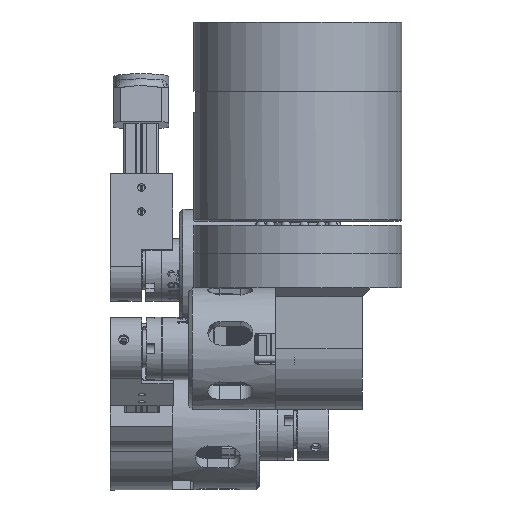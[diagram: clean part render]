
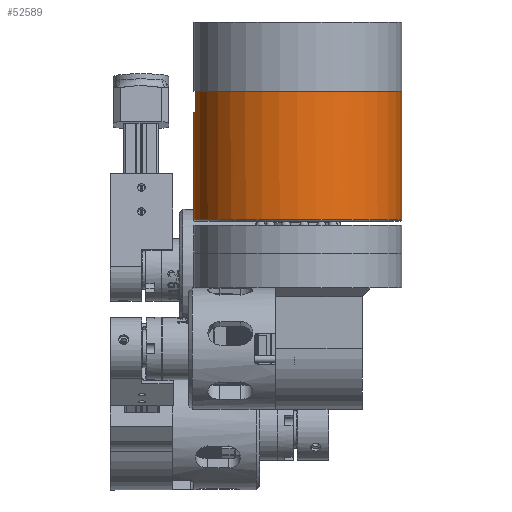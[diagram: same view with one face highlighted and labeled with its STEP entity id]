
A CAD part, left-side view. The second image highlights one B-rep face of the part: STEP entity #52589.
In plain terms, the highlighted cylindrical face has radius 60 mm (diameter 120 mm), a full revolution.
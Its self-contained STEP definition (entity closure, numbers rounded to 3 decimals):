
#2932=CYLINDRICAL_SURFACE('',#56781,60.);
#6022=FACE_OUTER_BOUND('',#9125,.T.);
#9125=EDGE_LOOP('',(#46801,#46802,#46803,#46804,#46805,#46806,#46807,#46808,
#46809));
#10155=CIRCLE('',#56777,60.);
#10156=CIRCLE('',#56782,60.);
#10157=CIRCLE('',#56783,60.);
#10158=CIRCLE('',#56784,60.);
#10159=CIRCLE('',#56785,60.);
#16051=LINE('',#86747,#21873);
#16054=LINE('',#86753,#21876);
#16062=LINE('',#86772,#21884);
#21873=VECTOR('',#69810,10.);
#21876=VECTOR('',#69815,10.);
#21884=VECTOR('',#69829,60.);
#26181=VERTEX_POINT('',#86737);
#26182=VERTEX_POINT('',#86738);
#26185=VERTEX_POINT('',#86746);
#26187=VERTEX_POINT('',#86752);
#26193=VERTEX_POINT('',#86768);
#26194=VERTEX_POINT('',#86769);
#26195=VERTEX_POINT('',#86771);
#33132=EDGE_CURVE('',#26181,#26182,#10155,.T.);
#33136=EDGE_CURVE('',#26182,#26185,#16051,.T.);
#33139=EDGE_CURVE('',#26187,#26181,#16054,.T.);
#33147=EDGE_CURVE('',#26193,#26194,#10156,.T.);
#33148=EDGE_CURVE('',#26193,#26195,#16062,.T.);
#33149=EDGE_CURVE('',#26187,#26195,#10157,.T.);
#33150=EDGE_CURVE('',#26195,#26185,#10158,.T.);
#33151=EDGE_CURVE('',#26194,#26193,#10159,.T.);
#46801=ORIENTED_EDGE('',*,*,#33147,.F.);
#46802=ORIENTED_EDGE('',*,*,#33148,.T.);
#46803=ORIENTED_EDGE('',*,*,#33149,.F.);
#46804=ORIENTED_EDGE('',*,*,#33139,.T.);
#46805=ORIENTED_EDGE('',*,*,#33132,.T.);
#46806=ORIENTED_EDGE('',*,*,#33136,.T.);
#46807=ORIENTED_EDGE('',*,*,#33150,.F.);
#46808=ORIENTED_EDGE('',*,*,#33148,.F.);
#46809=ORIENTED_EDGE('',*,*,#33151,.F.);
#52589=ADVANCED_FACE('',(#6022),#2932,.T.);
#56777=AXIS2_PLACEMENT_3D('',#86739,#69803,#69804);
#56781=AXIS2_PLACEMENT_3D('',#86767,#69825,#69826);
#56782=AXIS2_PLACEMENT_3D('',#86770,#69827,#69828);
#56783=AXIS2_PLACEMENT_3D('',#86773,#69830,#69831);
#56784=AXIS2_PLACEMENT_3D('',#86774,#69832,#69833);
#56785=AXIS2_PLACEMENT_3D('',#86775,#69834,#69835);
#69803=DIRECTION('center_axis',(0.,1.,0.));
#69804=DIRECTION('ref_axis',(-1.,0.,0.));
#69810=DIRECTION('',(0.,-1.,0.));
#69815=DIRECTION('',(0.,1.,0.));
#69825=DIRECTION('center_axis',(0.,1.,0.));
#69826=DIRECTION('ref_axis',(-1.,0.,0.));
#69827=DIRECTION('center_axis',(0.,1.,0.));
#69828=DIRECTION('ref_axis',(-1.,0.,0.));
#69829=DIRECTION('',(0.,-1.,0.));
#69830=DIRECTION('center_axis',(0.,-1.,0.));
#69831=DIRECTION('ref_axis',(-1.,0.,0.));
#69832=DIRECTION('center_axis',(0.,-1.,0.));
#69833=DIRECTION('ref_axis',(-1.,0.,0.));
#69834=DIRECTION('center_axis',(0.,1.,0.));
#69835=DIRECTION('ref_axis',(-1.,0.,0.));
#86737=CARTESIAN_POINT('',(-10.,-28.7,59.161));
#86738=CARTESIAN_POINT('',(10.,-28.7,59.161));
#86739=CARTESIAN_POINT('Origin',(0.,-28.7,0.));
#86746=CARTESIAN_POINT('',(10.,-40.7,59.161));
#86747=CARTESIAN_POINT('',(10.,-40.7,59.161));
#86752=CARTESIAN_POINT('',(-10.,-40.7,59.161));
#86753=CARTESIAN_POINT('',(-10.,-40.7,59.161));
#86767=CARTESIAN_POINT('Origin',(0.,-40.7,0.));
#86768=CARTESIAN_POINT('',(60.,33.,0.));
#86769=CARTESIAN_POINT('',(0.,33.,-60.));
#86770=CARTESIAN_POINT('Origin',(0.,33.,0.));
#86771=CARTESIAN_POINT('',(60.,-40.7,0.));
#86772=CARTESIAN_POINT('',(60.,-40.7,0.));
#86773=CARTESIAN_POINT('Origin',(0.,-40.7,0.));
#86774=CARTESIAN_POINT('Origin',(0.,-40.7,0.));
#86775=CARTESIAN_POINT('Origin',(0.,33.,0.));
